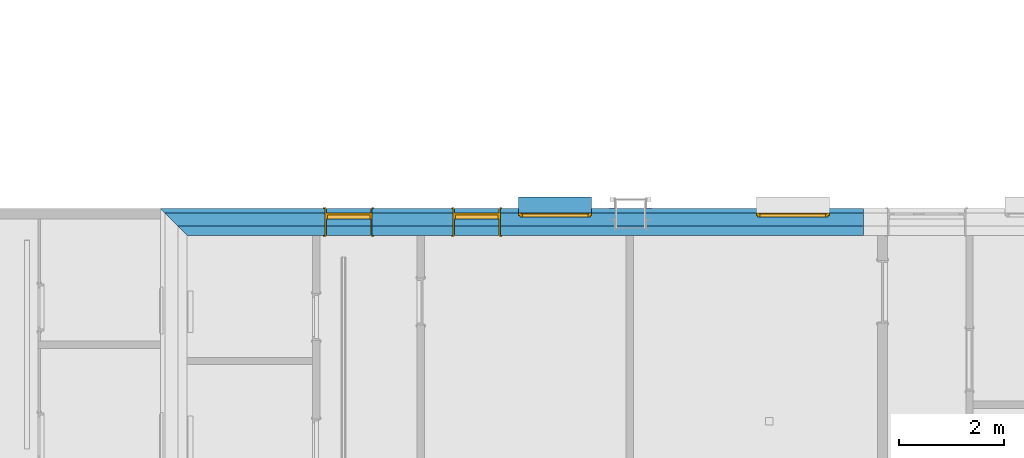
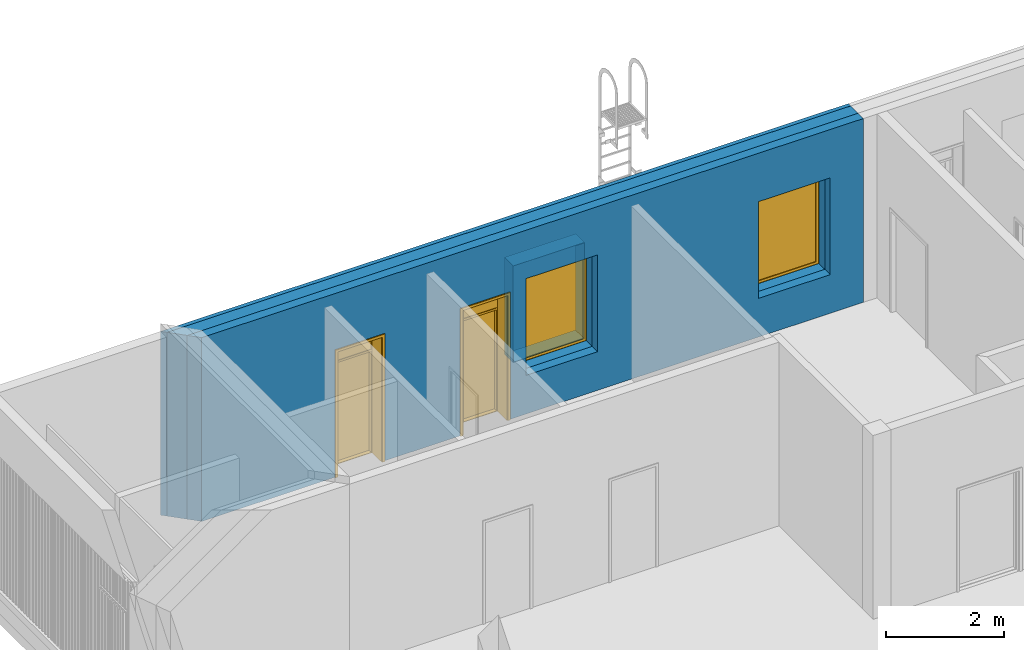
# One storey, part 30 of 112: 3 building element parts, 2 doors, 2 windows, 1 discrete accessory, 4 openings, 1 element without a shape of its own.
"""IFC2X3 building model written with IfcOpenShell, lengths in millimetres."""

from ifc_helpers import new_model, entity, si_unit, converted_unit, derived_unit, money_unit, direction, frame, origin_with_axes, origin_2d_with_axis, place, context, subcontext, project, spatial, polyline, rectangle, outline, extrude, open_shell, faceted_brep, surface_model, source, transform, mapped, material, type_object, element, fill, aggregate, save


model = new_model("IFC2X3")

# Units and contexts
model_context = context("Model", 3, precision=0.01, world=origin_with_axes(), true_north=direction((0.0, 1.0)))
body_context = subcontext(model_context, "Body", "Model", "MODEL_VIEW")
ifc_project = project(units=[si_unit("LENGTHUNIT", "METRE", prefix="MILLI"), si_unit("AREAUNIT", "SQUARE_METRE"), si_unit("VOLUMEUNIT", "CUBIC_METRE"), converted_unit("PLANEANGLEUNIT", "DEGREE", entity("IfcPlaneAngleMeasure", 0.0174532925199), si_unit("PLANEANGLEUNIT", "RADIAN"), dimensions=[0, 0, 0, 0, 0, 0, 0]), si_unit("SOLIDANGLEUNIT", "STERADIAN"), money_unit("EUR"), converted_unit("TIMEUNIT", "Year", entity("IfcTimeMeasure", 31556926.0), si_unit("TIMEUNIT", "SECOND"), dimensions=[0, 0, 1, 0, 0, 0, 0]), si_unit("MASSUNIT", "GRAM", prefix="KILO"), si_unit("THERMODYNAMICTEMPERATUREUNIT", "DEGREE_CELSIUS"), si_unit("LUMINOUSINTENSITYUNIT", "LUMEN"), si_unit("ENERGYUNIT", "JOULE", prefix="MEGA"), derived_unit("THERMALCONDUCTANCEUNIT", [(si_unit("POWERUNIT", "WATT"), 1), (si_unit("LENGTHUNIT", "METRE"), -1), (si_unit("THERMODYNAMICTEMPERATUREUNIT", "KELVIN"), -1)]), derived_unit("SPECIFICHEATCAPACITYUNIT", [(si_unit("ENERGYUNIT", "JOULE"), 1), (si_unit("MASSUNIT", "GRAM", prefix="KILO"), -1), (si_unit("THERMODYNAMICTEMPERATUREUNIT", "KELVIN"), -1)]), derived_unit("MASSDENSITYUNIT", [(si_unit("MASSUNIT", "GRAM", prefix="KILO"), 1), (si_unit("VOLUMEUNIT", "CUBIC_METRE"), -1)])], contexts=[model_context])

# Site, building, storey
site_placement = place(None, origin_with_axes())
site = spatial("IfcSite", under=ifc_project, at=site_placement, Name="Politse- ja Piirivalveameti ning Päästeameti ühishoone", CompositionType="ELEMENT")
building_placement = place(site_placement, origin_with_axes())
building = spatial("IfcBuilding", under=site, at=building_placement, Name="Politse- ja Piirivalveameti ning Päästeameti ühishoone", CompositionType="ELEMENT")
storey_placement = place(building_placement, origin_with_axes())
storey = spatial("IfcBuildingStorey", under=building, at=storey_placement, Name="Esimene korrus", CompositionType="ELEMENT", Elevation=0.0)

# Window
window_style = type_object("IfcWindowStyle", Name="Window 23", ConstructionType="NOTDEFINED", OperationType="SINGLE_PANEL", ParameterTakesPrecedence=False, Sizeable=False)
shared_shape_1 = source(origin_with_axes(), body_context, "Body", "SurfaceModel", [
    faceted_brep([(-675.0, 0.0, 1950.0), (-700.0, 0.0, 1950.0), (-700.0, -50.0, 1950.0), (-650.0, -50.0, 1950.0), (-650.0, -25.0, 1950.0), (-675.0, -25.0, 1950.0), (-675.0, 0.0, 50.0), (-700.0, 0.0, 50.0), (-700.0, -50.0, 50.0), (-650.0, -50.0, 50.0), (-650.0, -25.0, 50.0), (-675.0, -25.0, 50.0)], [[[0, 1, 2, 3, 4, 5]], [[6, 7, 1, 0]], [[1, 7, 8, 2]], [[2, 8, 9, 3]], [[4, 3, 9, 10]], [[10, 11, 5, 4]], [[5, 11, 6, 0]], [[11, 10, 9, 8, 7, 6]]]),
    faceted_brep([(650.0, -25.0, 1950.0), (650.0, -50.0, 1950.0), (700.0, -50.0, 1950.0), (700.0, 0.0, 1950.0), (675.0, 0.0, 1950.0), (675.0, -25.0, 1950.0), (650.0, -25.0, 50.0), (650.0, -50.0, 50.0), (700.0, -50.0, 50.0), (700.0, 0.0, 50.0), (675.0, 0.0, 50.0), (675.0, -25.0, 50.0)], [[[0, 1, 2, 3, 4, 5]], [[6, 7, 1, 0]], [[8, 2, 1, 7]], [[9, 3, 2, 8]], [[4, 3, 9, 10]], [[10, 11, 5, 4]], [[5, 11, 6, 0]], [[11, 10, 9, 8, 7, 6]]]),
    faceted_brep([(650.0, -25.0, 50.0), (650.0, -50.0, 50.0), (700.0, -50.0, 50.0), (700.0, 0.0, 50.0), (675.0, 0.0, 50.0), (675.0, -25.0, 50.0), (-650.0, -25.0, 50.0), (-650.0, -50.0, 50.0), (-700.0, -50.0, 50.0), (-700.0, -50.0, 0.0), (700.0, -50.0, 0.0), (700.0, 0.0, 0.0), (-675.0, 0.0, 25.0), (675.0, 0.0, 25.0), (-700.0, 0.0, 0.0), (-700.0, 0.0, 50.0), (-675.0, 0.0, 50.0), (675.0, -25.0, 25.0), (-675.0, -25.0, 25.0), (-675.0, -25.0, 50.0)], [[[0, 1, 2, 3, 4, 5]], [[6, 7, 1, 0]], [[8, 9, 10, 2, 1, 7]], [[11, 3, 2, 10]], [[12, 13, 4, 3, 11, 14, 15, 16]], [[13, 17, 5, 4]], [[5, 17, 18, 19, 6, 0]], [[19, 16, 15, 8, 7, 6]], [[15, 14, 9, 8]], [[14, 11, 10, 9]], [[12, 18, 17, 13]], [[19, 18, 12, 16]]]),
    faceted_brep([(-675.0, 0.0, 1950.0), (-700.0, 0.0, 1950.0), (-700.0, 0.0, 2000.0), (700.0, 0.0, 2000.0), (700.0, 0.0, 1950.0), (675.0, 0.0, 1950.0), (675.0, 0.0, 1975.0), (-675.0, 0.0, 1975.0), (-675.0, -25.0, 1950.0), (-650.0, -25.0, 1950.0), (-650.0, -50.0, 1950.0), (-700.0, -50.0, 1950.0), (-700.0, -50.0, 2000.0), (700.0, -50.0, 2000.0), (700.0, -50.0, 1950.0), (675.0, -25.0, 1950.0), (650.0, -50.0, 1950.0), (650.0, -25.0, 1950.0), (675.0, -25.0, 1975.0), (-675.0, -25.0, 1975.0)], [[[0, 1, 2, 3, 4, 5, 6, 7]], [[8, 9, 10, 11, 1, 0]], [[2, 1, 11, 12]], [[3, 2, 12, 13]], [[4, 3, 13, 14]], [[15, 5, 4, 14, 16, 17]], [[5, 15, 18, 6]], [[6, 18, 19, 7]], [[7, 19, 8, 0]], [[17, 9, 8, 19, 18, 15]], [[17, 16, 10, 9]], [[14, 13, 12, 11, 10, 16]]]),
    faceted_brep([(-625.0, -25.0, 1925.0), (-625.0, 25.0, 1925.0), (-675.0, 25.0, 1925.0), (-675.0, -25.0, 1925.0), (-625.0, -25.0, 75.0), (-625.0, 25.0, 75.0), (-675.0, 25.0, 75.0), (-675.0, -25.0, 75.0)], [[[0, 1, 2, 3]], [[4, 5, 1, 0]], [[1, 5, 6, 2]], [[3, 2, 6, 7]], [[0, 3, 7, 4]], [[7, 6, 5, 4]]]),
    faceted_brep([(625.0, -25.0, 75.0), (625.0, 25.0, 75.0), (675.0, 25.0, 75.0), (675.0, -25.0, 75.0), (625.0, -25.0, 1925.0), (625.0, 25.0, 1925.0), (675.0, 25.0, 1925.0), (675.0, -25.0, 1925.0)], [[[0, 1, 2, 3]], [[4, 5, 1, 0]], [[1, 5, 6, 2]], [[3, 2, 6, 7]], [[0, 3, 7, 4]], [[7, 6, 5, 4]]]),
    faceted_brep([(675.0, -25.0, 25.0), (675.0, 25.0, 25.0), (675.0, 25.0, 75.0), (675.0, -25.0, 75.0), (-675.0, -25.0, 25.0), (-675.0, 25.0, 25.0), (-675.0, 25.0, 75.0), (-625.0, 25.0, 75.0), (625.0, 25.0, 75.0), (625.0, -25.0, 75.0), (-625.0, -25.0, 75.0), (-675.0, -25.0, 75.0)], [[[0, 1, 2, 3]], [[4, 5, 1, 0]], [[1, 5, 6, 7, 8, 2]], [[3, 2, 8, 9]], [[0, 3, 9, 10, 11, 4]], [[11, 6, 5, 4]], [[10, 7, 6, 11]], [[9, 8, 7, 10]]]),
    faceted_brep([(-675.0, -25.0, 1975.0), (-675.0, 25.0, 1975.0), (-675.0, 25.0, 1925.0), (-675.0, -25.0, 1925.0), (675.0, -25.0, 1975.0), (675.0, 25.0, 1975.0), (675.0, 25.0, 1925.0), (625.0, 25.0, 1925.0), (-625.0, 25.0, 1925.0), (-625.0, -25.0, 1925.0), (625.0, -25.0, 1925.0), (675.0, -25.0, 1925.0)], [[[0, 1, 2, 3]], [[4, 5, 1, 0]], [[1, 5, 6, 7, 8, 2]], [[3, 2, 8, 9]], [[0, 3, 9, 10, 11, 4]], [[11, 6, 5, 4]], [[10, 7, 6, 11]], [[9, 8, 7, 10]]]),
    surface_model("IfcShellBasedSurfaceModel", [(-625.0, -10.0, 75.0), (625.0, -10.0, 75.0), (625.0, -10.0, 1925.0), (-625.0, -10.0, 1925.0)], [open_shell([[[0, 1, 2, 3]]])]),
    surface_model("IfcShellBasedSurfaceModel", [(-625.0, 10.0, 75.0), (-625.0, 10.0, 1925.0), (625.0, 10.0, 1925.0), (625.0, 10.0, 75.0)], [open_shell([[[0, 1, 2, 3]]])]),
])
wall_placement = place(storey_placement, frame((3500.00534722, 20999.9520832, 0.0), z_axis=(0.0, 0.0, 1.0), x_axis=(1.0, 0.0, 0.0)))
opening_1_placement = place(wall_placement, frame((7040.24260024, 0.0, 800.0), z_axis=(0.0, 0.0, 1.0), x_axis=(1.0, 0.0, 0.0)))
window_1_placement = place(opening_1_placement, frame((700.0, 0.0, 0.0), z_axis=(0.0, 0.0, 1.0), x_axis=(-1.0, 0.0, 0.0)))
window_1 = element("IfcWindow", 1, at=window_1_placement, inside=storey, type_object=window_style, Name="A-02", ObjectType="WINDOW", OverallHeight=2000.0, OverallWidth=1400.0, context=body_context, shape_type="MappedRepresentation", body=[
    mapped(shared_shape_1, transform((700.0, -380.0, 0.0))),
])

opening_2_placement = place(wall_placement, frame((11590.1613279, 0.0, 800.0), z_axis=(0.0, 0.0, 1.0), x_axis=(1.0, 0.0, 0.0)))
window_2_placement = place(opening_2_placement, frame((700.0, 0.0, 0.0), z_axis=(0.0, 0.0, 1.0), x_axis=(-1.0, 0.0, 0.0)))
window_2 = element("IfcWindow", 2, at=window_2_placement, inside=storey, type_object=window_style, Name="A-02", ObjectType="WINDOW", OverallHeight=2000.0, OverallWidth=1400.0, context=body_context, shape_type="MappedRepresentation", body=[
    mapped(shared_shape_1, transform((700.0, -380.0, 0.0))),
])

# Door
door_style = type_object("IfcDoorStyle", Name="Door with Transom 23", ConstructionType="NOTDEFINED", OperationType="SINGLE_SWING_RIGHT", ParameterTakesPrecedence=False, Sizeable=False)
shared_shape_2 = source(origin_with_axes(), body_context, "Body", "SurfaceModel", [
    faceted_brep([(422.0, -40.0, 0.0), (422.0, -40.0, 12.0), (410.0, -40.0, 12.0), (410.0, -40.0, 0.0), (-422.0, -40.0, 0.0), (-422.0, -40.0, 12.0), (-410.0, -40.0, 12.0), (-410.0, -115.0, 12.0), (410.0, -115.0, 12.0), (410.0, -115.0, 0.0), (-410.0, -115.0, 0.0), (-410.0, -40.0, 0.0)], [[[0, 1, 2, 3]], [[4, 5, 1, 0]], [[1, 5, 6, 7, 8, 2]], [[3, 2, 8, 9]], [[0, 3, 9, 10, 11, 4]], [[11, 6, 5, 4]], [[10, 7, 6, 11]], [[9, 8, 7, 10]]]),
    faceted_brep([(-450.0, -115.0, 0.0), (-425.0, -115.0, 0.0), (-425.0, -430.0, 0.0), (-450.0, -430.0, 0.0), (-450.0, -115.0, 2600.0), (-425.0, -115.0, 2575.0), (-425.0, -430.0, 2575.0), (-450.0, -430.0, 2600.0)], [[[0, 1, 2, 3]], [[0, 4, 5, 1]], [[1, 5, 6, 2]], [[3, 2, 6, 7]], [[4, 0, 3, 7]], [[5, 4, 7, 6]]]),
    faceted_brep([(450.0, -115.0, 2600.0), (425.0, -115.0, 2575.0), (425.0, -430.0, 2575.0), (450.0, -430.0, 2600.0), (450.0, -115.0, 0.0), (425.0, -115.0, 0.0), (425.0, -430.0, 0.0), (450.0, -430.0, 0.0)], [[[0, 1, 2, 3]], [[0, 4, 5, 1]], [[1, 5, 6, 2]], [[3, 2, 6, 7]], [[4, 0, 3, 7]], [[5, 4, 7, 6]]]),
    faceted_brep([(-425.0, -115.0, 2575.0), (425.0, -115.0, 2575.0), (425.0, -430.0, 2575.0), (-425.0, -430.0, 2575.0), (-450.0, -115.0, 2600.0), (450.0, -115.0, 2600.0), (450.0, -430.0, 2600.0), (-450.0, -430.0, 2600.0)], [[[0, 1, 2, 3]], [[0, 4, 5, 1]], [[1, 5, 6, 2]], [[3, 2, 6, 7]], [[4, 0, 3, 7]], [[5, 4, 7, 6]]]),
    faceted_brep([(-487.0, -449.0, 0.0), (-487.0, -430.0, 0.0), (-437.0, -430.0, 0.0), (-437.0, -449.0, 0.0), (-487.0, -449.0, 2637.0), (-487.0, -430.0, 2637.0), (-437.0, -430.0, 2587.0), (-437.0, -449.0, 2587.0)], [[[0, 1, 2, 3]], [[4, 5, 1, 0]], [[1, 5, 6, 2]], [[3, 2, 6, 7]], [[0, 3, 7, 4]], [[7, 6, 5, 4]]]),
    faceted_brep([(487.0, -449.0, 2637.0), (487.0, -430.0, 2637.0), (437.0, -430.0, 2587.0), (437.0, -449.0, 2587.0), (487.0, -449.0, 0.0), (487.0, -430.0, 0.0), (437.0, -430.0, 0.0), (437.0, -449.0, 0.0)], [[[0, 1, 2, 3]], [[4, 5, 1, 0]], [[1, 5, 6, 2]], [[3, 2, 6, 7]], [[0, 3, 7, 4]], [[7, 6, 5, 4]]]),
    faceted_brep([(-487.0, -449.0, 2637.0), (-487.0, -430.0, 2637.0), (-437.0, -430.0, 2587.0), (-437.0, -449.0, 2587.0), (487.0, -449.0, 2637.0), (487.0, -430.0, 2637.0), (437.0, -430.0, 2587.0), (437.0, -449.0, 2587.0)], [[[0, 1, 2, 3]], [[4, 5, 1, 0]], [[1, 5, 6, 2]], [[3, 2, 6, 7]], [[0, 3, 7, 4]], [[7, 6, 5, 4]]]),
    faceted_brep([(-450.0, 0.0, 0.0), (-450.0, 80.0, 0.0), (-425.0, 80.0, 0.0), (-425.0, 0.0, 0.0), (-450.0, 0.0, 2600.0), (-450.0, 80.0, 2600.0), (-425.0, 80.0, 2575.0), (-425.0, 0.0, 2575.0)], [[[0, 1, 2, 3]], [[4, 5, 1, 0]], [[1, 5, 6, 2]], [[3, 2, 6, 7]], [[0, 3, 7, 4]], [[7, 6, 5, 4]]]),
    faceted_brep([(450.0, 0.0, 2600.0), (450.0, 80.0, 2600.0), (425.0, 80.0, 2575.0), (425.0, 0.0, 2575.0), (450.0, 0.0, 0.0), (450.0, 80.0, 0.0), (425.0, 80.0, 0.0), (425.0, 0.0, 0.0)], [[[0, 1, 2, 3]], [[4, 5, 1, 0]], [[1, 5, 6, 2]], [[3, 2, 6, 7]], [[0, 3, 7, 4]], [[7, 6, 5, 4]]]),
    faceted_brep([(-450.0, 0.0, 2600.0), (-450.0, 80.0, 2600.0), (-425.0, 80.0, 2575.0), (-425.0, 0.0, 2575.0), (450.0, 0.0, 2600.0), (450.0, 80.0, 2600.0), (425.0, 80.0, 2575.0), (425.0, 0.0, 2575.0)], [[[0, 1, 2, 3]], [[4, 5, 1, 0]], [[1, 5, 6, 2]], [[3, 2, 6, 7]], [[0, 3, 7, 4]], [[7, 6, 5, 4]]]),
    faceted_brep([(-487.0, 99.0, 0.0), (-437.0, 99.0, 0.0), (-437.0, 80.0, 0.0), (-487.0, 80.0, 0.0), (-487.0, 99.0, 2637.0), (-437.0, 99.0, 2587.0), (-437.0, 80.0, 2587.0), (-487.0, 80.0, 2637.0)], [[[0, 1, 2, 3]], [[0, 4, 5, 1]], [[1, 5, 6, 2]], [[3, 2, 6, 7]], [[4, 0, 3, 7]], [[5, 4, 7, 6]]]),
    faceted_brep([(487.0, 99.0, 2637.0), (437.0, 99.0, 2587.0), (437.0, 80.0, 2587.0), (487.0, 80.0, 2637.0), (487.0, 99.0, 0.0), (437.0, 99.0, 0.0), (437.0, 80.0, 0.0), (487.0, 80.0, 0.0)], [[[0, 1, 2, 3]], [[0, 4, 5, 1]], [[1, 5, 6, 2]], [[3, 2, 6, 7]], [[4, 0, 3, 7]], [[5, 4, 7, 6]]]),
    faceted_brep([(-487.0, 99.0, 2637.0), (-437.0, 99.0, 2587.0), (-437.0, 80.0, 2587.0), (-487.0, 80.0, 2637.0), (487.0, 99.0, 2637.0), (437.0, 99.0, 2587.0), (437.0, 80.0, 2587.0), (487.0, 80.0, 2637.0)], [[[0, 1, 2, 3]], [[0, 4, 5, 1]], [[1, 5, 6, 2]], [[3, 2, 6, 7]], [[4, 0, 3, 7]], [[5, 4, 7, 6]]]),
    faceted_brep([(-410.0, -40.0, 2112.0), (-410.0, 0.0, 2112.0), (-410.0, 0.0, 2140.0), (-410.0, -115.0, 2140.0), (-410.0, -115.0, 2100.0), (-410.0, -115.0, 0.0), (-410.0, -40.0, 0.0), (-422.0, -40.0, 2112.0), (-422.0, 0.0, 2112.0), (-422.0, 0.0, 0.0), (-450.0, 0.0, 0.0), (-450.0, 0.0, 2560.0), (-410.0, 0.0, 2560.0), (-410.0, -115.0, 2560.0), (-450.0, -115.0, 2560.0), (-450.0, -115.0, 0.0), (-422.0, -40.0, 0.0)], [[[0, 1, 2, 3, 4, 5, 6]], [[1, 0, 7, 8]], [[8, 9, 10, 11, 12, 2, 1]], [[12, 13, 3, 2]], [[3, 13, 14, 15, 5, 4]], [[16, 6, 5, 15, 10, 9]], [[0, 6, 16, 7]], [[9, 8, 7, 16]], [[10, 15, 14, 11]], [[11, 14, 13, 12]]]),
    faceted_brep([(422.0, 0.0, 2112.0), (410.0, 0.0, 2112.0), (410.0, 0.0, 2140.0), (410.0, 0.0, 2560.0), (450.0, 0.0, 2560.0), (450.0, 0.0, 0.0), (422.0, 0.0, 0.0), (422.0, -40.0, 2112.0), (410.0, -40.0, 2112.0), (410.0, -40.0, 0.0), (410.0, -115.0, 0.0), (410.0, -115.0, 2100.0), (410.0, -115.0, 2140.0), (410.0, -115.0, 2560.0), (450.0, -115.0, 2560.0), (450.0, -115.0, 0.0), (422.0, -40.0, 0.0)], [[[0, 1, 2, 3, 4, 5, 6]], [[1, 0, 7, 8]], [[8, 9, 10, 11, 12, 2, 1]], [[2, 12, 13, 3]], [[3, 13, 14, 4]], [[4, 14, 15, 5]], [[16, 6, 5, 15, 10, 9]], [[0, 6, 16, 7]], [[16, 9, 8, 7]], [[12, 11, 10, 15, 14, 13]]]),
    faceted_brep([(-450.0, 0.0, 2600.0), (-450.0, 0.0, 2560.0), (-450.0, -115.0, 2560.0), (-450.0, -115.0, 2600.0), (450.0, 0.0, 2600.0), (450.0, 0.0, 2560.0), (410.0, 0.0, 2560.0), (-410.0, 0.0, 2560.0), (-410.0, -115.0, 2560.0), (410.0, -115.0, 2560.0), (450.0, -115.0, 2560.0), (450.0, -115.0, 2600.0)], [[[0, 1, 2, 3]], [[0, 4, 5, 6, 7, 1]], [[1, 7, 8, 2]], [[3, 2, 8, 9, 10, 11]], [[4, 0, 3, 11]], [[5, 4, 11, 10]], [[6, 5, 10, 9]], [[7, 6, 9, 8]]]),
    faceted_brep([(410.0, -40.0, 2112.0), (410.0, 0.0, 2112.0), (410.0, 0.0, 2140.0), (410.0, -115.0, 2140.0), (410.0, -115.0, 2100.0), (410.0, -40.0, 2100.0), (-410.0, -40.0, 2112.0), (-410.0, 0.0, 2112.0), (-410.0, 0.0, 2140.0), (-410.0, -115.0, 2140.0), (-410.0, -115.0, 2100.0), (-410.0, -40.0, 2100.0)], [[[0, 1, 2, 3, 4, 5]], [[1, 0, 6, 7]], [[1, 7, 8, 2]], [[8, 9, 3, 2]], [[10, 4, 3, 9]], [[11, 5, 4, 10]], [[0, 5, 11, 6]], [[6, 11, 10, 9, 8, 7]]]),
    faceted_brep([(422.0, 0.0, 0.0), (422.0, -40.0, 0.0), (-422.0, -40.0, 0.0), (-422.0, 0.0, 0.0), (422.0, 0.0, 2112.0), (422.0, -40.0, 2112.0), (-422.0, -40.0, 2112.0), (-422.0, 0.0, 2112.0)], [[[0, 1, 2, 3]], [[4, 5, 1, 0]], [[1, 5, 6, 2]], [[3, 2, 6, 7]], [[0, 3, 7, 4]], [[7, 6, 5, 4]]]),
    surface_model("IfcShellBasedSurfaceModel", [(-410.0, -91.0, 2140.0), (-410.0, -91.0, 2560.0), (410.0, -91.0, 2560.0), (410.0, -91.0, 2140.0)], [open_shell([[[0, 1, 2, 3]]])]),
    surface_model("IfcShellBasedSurfaceModel", [(-410.0, -103.0, 2140.0), (410.0, -103.0, 2140.0), (410.0, -103.0, 2560.0), (-410.0, -103.0, 2560.0)], [open_shell([[[0, 1, 2, 3]]])]),
])
opening_3_placement = place(wall_placement, frame((3090.00366667, 0.0, 0.0), z_axis=(0.0, 0.0, 1.0), x_axis=(1.0, 0.0, 0.0)))
door_1_placement = place(opening_3_placement, frame((-450.0, 0.0, 0.0), z_axis=(0.0, 0.0, 1.0), x_axis=(1.0, 0.0, 0.0)))
door_1 = element("IfcDoor", 3, at=door_1_placement, inside=storey, type_object=door_style, Name="VU-05", ObjectType="DOOR", OverallHeight=2600.0, OverallWidth=900.0, context=body_context, shape_type="MappedRepresentation", body=[
    mapped(shared_shape_2, transform((450.0, 430.0, 0.0))),
])

opening_4_placement = place(wall_placement, frame((5540.45566228, 0.0, 0.0), z_axis=(0.0, 0.0, 1.0), x_axis=(1.0, 0.0, 0.0)))
door_2_placement = place(opening_4_placement, frame((-450.0, 0.0, 0.0), z_axis=(0.0, 0.0, 1.0), x_axis=(1.0, 0.0, 0.0)))
door_2 = element("IfcDoor", 4, at=door_2_placement, inside=storey, type_object=door_style, Name="VU-05", ObjectType="DOOR", OverallHeight=2600.0, OverallWidth=900.0, context=body_context, shape_type="MappedRepresentation", body=[
    mapped(shared_shape_2, transform((450.0, 430.0, 0.0))),
])

# Discrete accessory
ifc_material_1 = material(Name="SV-01_Krohv - Kips")
discrete_accessory_type = type_object("IfcDiscreteAccessoryType", Name="Architrave 01 23")
shared_shape_3 = source(origin_with_axes(), body_context, "Body", "Brep", [
    faceted_brep([(700.0, 0.0, -10.0), (700.0, -300.182356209, -10.0), (-700.0, -300.182356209, -10.0), (-700.0, 0.0, -10.0), (690.0, 0.0, 0.0), (690.0, -300.182356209, 0.0), (-690.0, -300.182356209, 0.0), (-690.0, 0.0, 0.0)], [[[0, 1, 2, 3]], [[4, 5, 1, 0]], [[1, 5, 6, 2]], [[3, 2, 6, 7]], [[0, 3, 7, 4]], [[7, 6, 5, 4]]]),
    faceted_brep([(-700.0, 0.0, -10.0), (-700.0, -300.182356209, -10.0), (-700.0, -300.182356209, 1990.0), (-700.0, 0.0, 1990.0), (-690.0, 0.0, 0.0), (-690.0, -300.182356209, 0.0), (-690.0, -300.182356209, 1980.0), (-690.0, 0.0, 1980.0)], [[[0, 1, 2, 3]], [[4, 5, 1, 0]], [[1, 5, 6, 2]], [[3, 2, 6, 7]], [[0, 3, 7, 4]], [[7, 6, 5, 4]]]),
    faceted_brep([(-700.0, 0.0, 1990.0), (-700.0, -300.182356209, 1990.0), (700.0, -300.182356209, 1990.0), (700.0, 0.0, 1990.0), (-690.0, 0.0, 1980.0), (-690.0, -300.182356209, 1980.0), (690.0, -300.182356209, 1980.0), (690.0, 0.0, 1980.0)], [[[0, 1, 2, 3]], [[4, 5, 1, 0]], [[1, 5, 6, 2]], [[3, 2, 6, 7]], [[0, 3, 7, 4]], [[7, 6, 5, 4]]]),
    faceted_brep([(700.0, 0.0, 1990.0), (700.0, -300.182356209, 1990.0), (700.0, -300.182356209, -10.0), (700.0, 0.0, -10.0), (690.0, 0.0, 1980.0), (690.0, -300.182356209, 1980.0), (690.0, -300.182356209, 0.0), (690.0, 0.0, 0.0)], [[[0, 1, 2, 3]], [[4, 5, 1, 0]], [[1, 5, 6, 2]], [[3, 2, 6, 7]], [[0, 3, 7, 4]], [[7, 6, 5, 4]]]),
])
discrete_accessory_placement = place(storey_placement, frame((10540.2479475, 21429.9520832, 810.0), z_axis=(0.0, 0.0, 1.0), x_axis=(-1.0, 0.0, 0.0)))
element("IfcDiscreteAccessory", 5, at=discrete_accessory_placement, inside=storey, type_object=discrete_accessory_type, material=ifc_material_1, Name="AKNARAAM 01", context=body_context, shape_type="MappedRepresentation", body=[
    mapped(shared_shape_3, transform((0.0, 0.0, 0.0))),
])

# Wall, opening
wall_type = type_object("IfcWallType", Name="VS-01_välissein 510", PredefinedType="NOTDEFINED")
wall = element("IfcWall", 6, at=wall_placement, inside=storey, type_object=wall_type, Name="VS-01")
opening_1 = element("IfcOpeningElement", 7, at=opening_1_placement, cuts=wall, Name="A-02", context=body_context, shape_type="SweptSolid", body=[
    extrude(rectangle(XDim=1400.0, YDim=2000.0, at=origin_2d_with_axis()), frame((0.0, 430.0, 1000.0), z_axis=(0.0, 1.0, 0.0), x_axis=(-1.0, 0.0, 0.0)), (0.0, 0.0, -1.0), 940.0),
    extrude(rectangle(XDim=1400.0, YDim=2000.0, at=origin_2d_with_axis()), frame((0.0, 430.0, 1000.0), z_axis=(0.0, -1.0, 0.0), x_axis=(-1.0, 0.0, 0.0)), (0.0, 0.0, -1.0), 590.0),
])

fill(opening_1, window_1)

# Opening
opening_2 = element("IfcOpeningElement", 8, at=opening_2_placement, cuts=wall, Name="A-02", context=body_context, shape_type="SweptSolid", body=[
    extrude(rectangle(XDim=1400.0, YDim=2000.0, at=origin_2d_with_axis()), frame((0.0, 430.0, 1000.0), z_axis=(0.0, 1.0, 0.0), x_axis=(-1.0, 0.0, 0.0)), (0.0, 0.0, -1.0), 940.0),
    extrude(rectangle(XDim=1400.0, YDim=2000.0, at=origin_2d_with_axis()), frame((0.0, 430.0, 1000.0), z_axis=(0.0, -1.0, 0.0), x_axis=(-1.0, 0.0, 0.0)), (0.0, 0.0, -1.0), 590.0),
])

fill(opening_2, window_2)

opening_3 = element("IfcOpeningElement", 9, at=opening_3_placement, cuts=wall, Name="VU-05", context=body_context, shape_type="SweptSolid", body=[
    extrude(rectangle(XDim=900.0, YDim=2600.0, at=origin_2d_with_axis()), frame((0.0, 430.0, 1300.0), z_axis=(0.0, 1.0, 0.0), x_axis=(1.0, 0.0, 0.0)), (0.0, 0.0, -1.0), 940.0),
    extrude(rectangle(XDim=900.0, YDim=2600.0, at=origin_2d_with_axis()), frame((0.0, 430.0, 1300.0), z_axis=(0.0, -1.0, 0.0), x_axis=(1.0, 0.0, 0.0)), (0.0, 0.0, -1.0), 590.0),
    extrude(rectangle(XDim=974.0, YDim=2637.0, at=origin_2d_with_axis()), frame((0.0, 0.0, 1318.5), z_axis=(0.0, 1.0, 0.0), x_axis=(1.0, 0.0, 0.0)), (0.0, 0.0, -1.0), 590.0),
    extrude(rectangle(XDim=974.0, YDim=2637.0, at=origin_2d_with_axis()), frame((0.0, 510.0, 1318.5), z_axis=(0.0, -1.0, 0.0), x_axis=(1.0, 0.0, 0.0)), (0.0, 0.0, -1.0), 590.0),
])

fill(opening_3, door_1)

opening_4 = element("IfcOpeningElement", 10, at=opening_4_placement, cuts=wall, Name="VU-05", context=body_context, shape_type="SweptSolid", body=[
    extrude(rectangle(XDim=900.0, YDim=2600.0, at=origin_2d_with_axis()), frame((0.0, 430.0, 1300.0), z_axis=(0.0, 1.0, 0.0), x_axis=(1.0, 0.0, 0.0)), (0.0, 0.0, -1.0), 940.0),
    extrude(rectangle(XDim=900.0, YDim=2600.0, at=origin_2d_with_axis()), frame((0.0, 430.0, 1300.0), z_axis=(0.0, -1.0, 0.0), x_axis=(1.0, 0.0, 0.0)), (0.0, 0.0, -1.0), 590.0),
    extrude(rectangle(XDim=974.0, YDim=2637.0, at=origin_2d_with_axis()), frame((0.0, 0.0, 1318.5), z_axis=(0.0, 1.0, 0.0), x_axis=(1.0, 0.0, 0.0)), (0.0, 0.0, -1.0), 590.0),
    extrude(rectangle(XDim=974.0, YDim=2637.0, at=origin_2d_with_axis()), frame((0.0, 510.0, 1318.5), z_axis=(0.0, -1.0, 0.0), x_axis=(1.0, 0.0, 0.0)), (0.0, 0.0, -1.0), 590.0),
])

fill(opening_4, door_2)

# Building element part
ifc_material_2 = material(Name="KON-04_Betoon - Konstuktsioon")
building_element_part_1_placement = place(wall_placement, origin_with_axes())
building_element_part_1 = element("IfcBuildingElementPart", 11, at=building_element_part_1_placement, material=ifc_material_2, Name="KON-04_Betoon - Konstuktsioon", context=body_context, shape_type="SweptSolid", body=[
    extrude(outline(polyline([(0.0, 0.0), (12940.0804719, 0.0), (12940.0804719, 180.0), (-180.0, 180.0), (0.0, 0.0)])), origin_with_axes(), (0.0, 0.0, 1.0), 3800.0),
])

ifc_material_3 = material(Name="SOJ-06_Soojustus - Plastik Kõva")
building_element_part_2_placement = place(wall_placement, origin_with_axes())
building_element_part_2 = element("IfcBuildingElementPart", 12, at=building_element_part_2_placement, material=ifc_material_3, Name="SOJ-06_Soojustus - Plastik Kõva", context=body_context, shape_type="SweptSolid", body=[
    extrude(outline(polyline([(-180.0, 180.0), (12940.0804719, 180.0), (12940.0804719, 430.0), (-430.0, 430.0), (-180.0, 180.0)])), origin_with_axes(), (0.0, 0.0, 1.0), 3800.0),
])

building_element_part_3_placement = place(wall_placement, origin_with_axes())
building_element_part_3 = element("IfcBuildingElementPart", 13, at=building_element_part_3_placement, material=ifc_material_2, Name="KON-04_Betoon - Konstuktsioon", context=body_context, shape_type="SweptSolid", body=[
    extrude(outline(polyline([(-430.0, 430.0), (12940.0804719, 430.0), (12940.0804719, 510.0), (-510.0, 510.0), (-430.0, 430.0)])), origin_with_axes(), (0.0, 0.0, 1.0), 3800.0),
])

aggregate(wall, [building_element_part_1, building_element_part_2, building_element_part_3])

save(model, "model.ifc")
